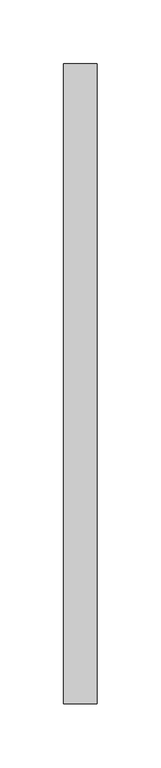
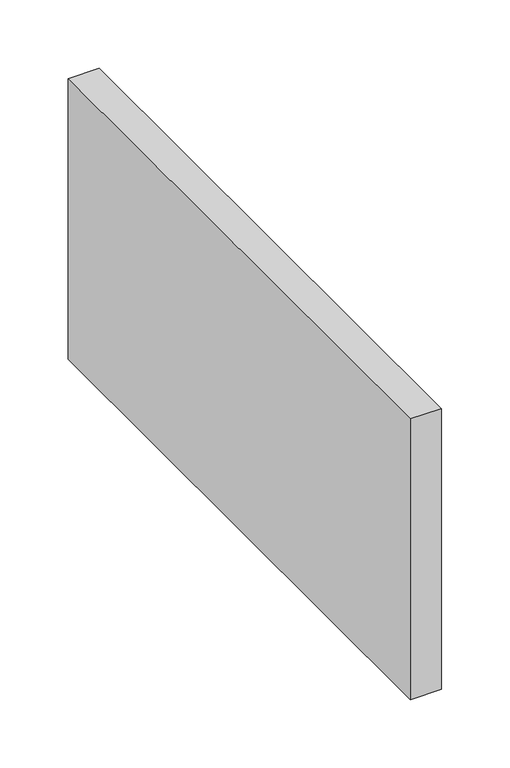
"""IFC4 building model written with IfcOpenShell, lengths in millimetres: duct fitting geometry, ADSK_ВрезкаВоздуховода_Прямоугольная1 : Стандарт 2."""

from ifc_helpers import new_model, si_unit, frame, origin, place, context, project, spatial, polyline, outline, extrude, source, transform, mapped, element, save


def duct_fitting_44bc2392(model_context):
    return source(origin(), model_context, "Body", "SweptSolid", [
        extrude(outline(polyline([(-6.096, -250.0), (-6.096, 250.0), (20.0, 250.0), (20.0, -250.0), (-6.096, -250.0)])), frame((0.0, 0.0, -125.0), z_axis=(0.0, 0.0, 1.0), x_axis=(1.0, 0.0, 0.0)), (0.0, 0.0, 1.0), 250.0),
    ])


if __name__ == "__main__":
    model = new_model("IFC4")
    model_context = context("Model", 3, world=origin())
    ifc_project = project(units=[si_unit("LENGTHUNIT", "METRE", prefix="MILLI")], contexts=[model_context])
    site = spatial("IfcSite", under=ifc_project)
    building = spatial("IfcBuilding", under=site)
    placement = place(None, origin())
    duct_fitting_shape = duct_fitting_44bc2392(model_context)
    element("IfcDuctFitting", 1, ObjectType="ADSK_ВрезкаВоздуховода_Прямоугольная1 : Стандарт 2", at=placement, inside=building, context=model_context, shape_type="MappedRepresentation", body=[
        mapped(duct_fitting_shape, transform((0.0, 0.0, 0.0), x_axis=(1.0, 0.0, 0.0), y_axis=(0.0, 1.0, 0.0), z_axis=(0.0, 0.0, 1.0))),
    ])
    save(model, "model.ifc")
